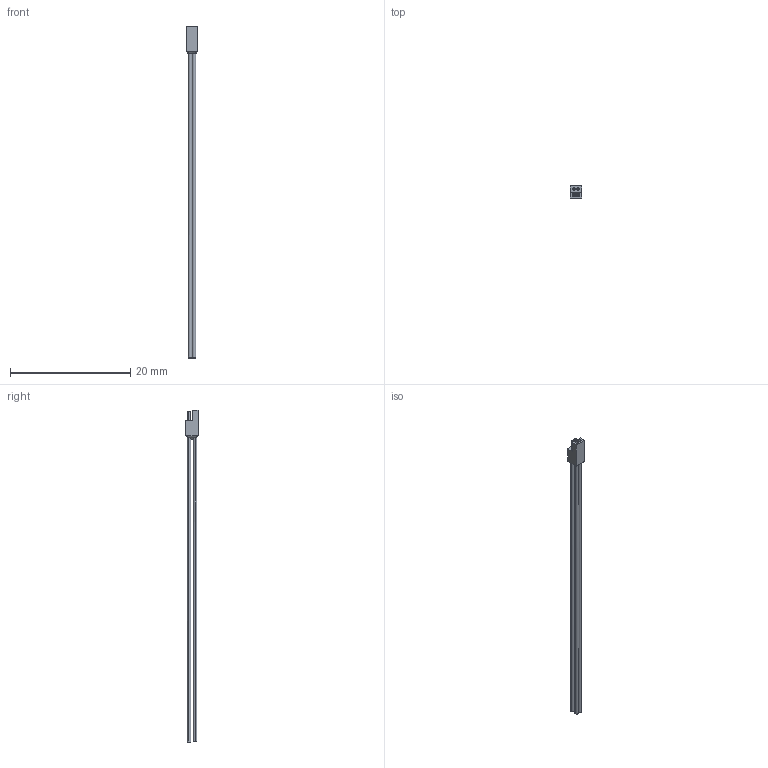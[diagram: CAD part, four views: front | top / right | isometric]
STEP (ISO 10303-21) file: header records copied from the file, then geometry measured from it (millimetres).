
FILE_DESCRIPTION (( 'STEP AP214' ), '1' );
FILE_NAME ('A79600-001 REV D.STEP', '2015-11-06T14:11:28', ( '' ), ( '' ), 'SwSTEP 2.0', 'SolidWorks 2015', '' );
FILE_SCHEMA (( 'AUTOMOTIVE_DESIGN' ));
Length unit declared in the file: inch
Products named in the file (1): A79600-001
Bounding box: 1.91 x 2.03 x 55.15 mm (x, y, z)
Volume: 70.9 mm3; surface area: 455.6 mm2
Topology: 1 solids, 3 shells, 68 faces, 158 edges, 101 vertices
Faces by surface type: cylinder 36, plane 24, bspline 8
Entity records: 2120 total; most frequent: CARTESIAN_POINT 606, ORIENTED_EDGE 308, DIRECTION 288, EDGE_CURVE 154, AXIS2_PLACEMENT_3D 117, VERTEX_POINT 101, EDGE_LOOP 81, ADVANCED_FACE 68
